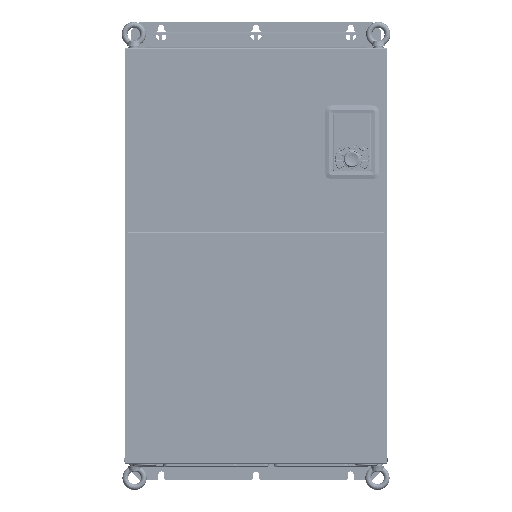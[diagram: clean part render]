
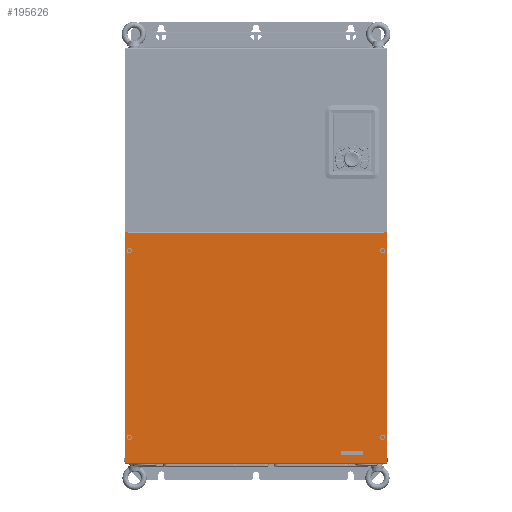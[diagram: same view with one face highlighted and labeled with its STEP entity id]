
A CAD part, top view. The second image highlights one B-rep face of the part: STEP entity #195626.
In plain terms, the highlighted planar face has unit normal (0, 0, 1).
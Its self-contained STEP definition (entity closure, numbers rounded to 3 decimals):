
#195012 = VERTEX_POINT('',#195013);
#195013 = CARTESIAN_POINT('',(244.,218.7,1.2));
#195045 = VERTEX_POINT('',#195046);
#195046 = CARTESIAN_POINT('',(-244.,218.7,1.2));
#195053 = EDGE_CURVE('',#195045,#195012,#195054,.T.);
#195054 = LINE('',#195055,#195056);
#195055 = CARTESIAN_POINT('',(-244.,218.7,1.2));
#195056 = VECTOR('',#195057,1.);
#195057 = DIRECTION('',(1.,0.,0.));
#195429 = EDGE_CURVE('',#195045,#195430,#195432,.T.);
#195430 = VERTEX_POINT('',#195431);
#195431 = CARTESIAN_POINT('',(-244.,219.9,1.2));
#195432 = LINE('',#195433,#195434);
#195433 = CARTESIAN_POINT('',(-244.,218.7,1.2));
#195434 = VECTOR('',#195435,1.);
#195435 = DIRECTION('',(0.,1.,0.));
#195559 = VERTEX_POINT('',#195560);
#195560 = CARTESIAN_POINT('',(244.,219.9,1.2));
#195568 = VERTEX_POINT('',#195569);
#195569 = CARTESIAN_POINT('',(248.3,219.9,1.2));
#195575 = EDGE_CURVE('',#195568,#195559,#195576,.T.);
#195576 = LINE('',#195577,#195578);
#195577 = CARTESIAN_POINT('',(248.3,219.9,1.2));
#195578 = VECTOR('',#195579,1.);
#195579 = DIRECTION('',(-1.,0.,0.));
#195590 = EDGE_CURVE('',#195430,#195591,#195593,.T.);
#195591 = VERTEX_POINT('',#195592);
#195592 = CARTESIAN_POINT('',(-248.3,219.9,1.2));
#195593 = LINE('',#195594,#195595);
#195594 = CARTESIAN_POINT('',(-244.,219.9,1.2));
#195595 = VECTOR('',#195596,1.);
#195596 = DIRECTION('',(-1.,0.,0.));
#195615 = EDGE_CURVE('',#195012,#195559,#195616,.T.);
#195616 = LINE('',#195617,#195618);
#195617 = CARTESIAN_POINT('',(244.,218.7,1.2));
#195618 = VECTOR('',#195619,1.);
#195619 = DIRECTION('',(0.,1.,0.));
#195626 = ADVANCED_FACE('',(#195627,#195656),#195690,.T.);
#195627 = FACE_BOUND('',#195628,.F.);
#195628 = EDGE_LOOP('',(#195629,#195630,#195631,#195632,#195640,#195648,
    #195654,#195655));
#195629 = ORIENTED_EDGE('',*,*,#195053,.T.);
#195630 = ORIENTED_EDGE('',*,*,#195615,.T.);
#195631 = ORIENTED_EDGE('',*,*,#195575,.F.);
#195632 = ORIENTED_EDGE('',*,*,#195633,.T.);
#195633 = EDGE_CURVE('',#195568,#195634,#195636,.T.);
#195634 = VERTEX_POINT('',#195635);
#195635 = CARTESIAN_POINT('',(248.3,-218.2,1.2));
#195636 = LINE('',#195637,#195638);
#195637 = CARTESIAN_POINT('',(248.3,219.9,1.2));
#195638 = VECTOR('',#195639,1.);
#195639 = DIRECTION('',(0.,-1.,0.));
#195640 = ORIENTED_EDGE('',*,*,#195641,.T.);
#195641 = EDGE_CURVE('',#195634,#195642,#195644,.T.);
#195642 = VERTEX_POINT('',#195643);
#195643 = CARTESIAN_POINT('',(-248.3,-218.2,1.2));
#195644 = LINE('',#195645,#195646);
#195645 = CARTESIAN_POINT('',(248.3,-218.2,1.2));
#195646 = VECTOR('',#195647,1.);
#195647 = DIRECTION('',(-1.,0.,0.));
#195648 = ORIENTED_EDGE('',*,*,#195649,.T.);
#195649 = EDGE_CURVE('',#195642,#195591,#195650,.T.);
#195650 = LINE('',#195651,#195652);
#195651 = CARTESIAN_POINT('',(-248.3,-218.2,1.2));
#195652 = VECTOR('',#195653,1.);
#195653 = DIRECTION('',(0.,1.,0.));
#195654 = ORIENTED_EDGE('',*,*,#195590,.F.);
#195655 = ORIENTED_EDGE('',*,*,#195429,.F.);
#195656 = FACE_BOUND('',#195657,.F.);
#195657 = EDGE_LOOP('',(#195658,#195668,#195676,#195684));
#195658 = ORIENTED_EDGE('',*,*,#195659,.F.);
#195659 = EDGE_CURVE('',#195660,#195662,#195664,.T.);
#195660 = VERTEX_POINT('',#195661);
#195661 = CARTESIAN_POINT('',(162.,-203.4,1.2));
#195662 = VERTEX_POINT('',#195663);
#195663 = CARTESIAN_POINT('',(162.,-196.4,1.2));
#195664 = LINE('',#195665,#195666);
#195665 = CARTESIAN_POINT('',(162.,-203.4,1.2));
#195666 = VECTOR('',#195667,1.);
#195667 = DIRECTION('',(0.,1.,0.));
#195668 = ORIENTED_EDGE('',*,*,#195669,.F.);
#195669 = EDGE_CURVE('',#195670,#195660,#195672,.T.);
#195670 = VERTEX_POINT('',#195671);
#195671 = CARTESIAN_POINT('',(203.,-203.4,1.2));
#195672 = LINE('',#195673,#195674);
#195673 = CARTESIAN_POINT('',(203.,-203.4,1.2));
#195674 = VECTOR('',#195675,1.);
#195675 = DIRECTION('',(-1.,0.,0.));
#195676 = ORIENTED_EDGE('',*,*,#195677,.F.);
#195677 = EDGE_CURVE('',#195678,#195670,#195680,.T.);
#195678 = VERTEX_POINT('',#195679);
#195679 = CARTESIAN_POINT('',(203.,-196.4,1.2));
#195680 = LINE('',#195681,#195682);
#195681 = CARTESIAN_POINT('',(203.,-196.4,1.2));
#195682 = VECTOR('',#195683,1.);
#195683 = DIRECTION('',(0.,-1.,0.));
#195684 = ORIENTED_EDGE('',*,*,#195685,.F.);
#195685 = EDGE_CURVE('',#195662,#195678,#195686,.T.);
#195686 = LINE('',#195687,#195688);
#195687 = CARTESIAN_POINT('',(162.,-196.4,1.2));
#195688 = VECTOR('',#195689,1.);
#195689 = DIRECTION('',(1.,0.,0.));
#195690 = PLANE('',#195691);
#195691 = AXIS2_PLACEMENT_3D('',#195692,#195693,#195694);
#195692 = CARTESIAN_POINT('',(0.,0.,1.2));
#195693 = DIRECTION('',(0.,0.,1.));
#195694 = DIRECTION('',(1.,0.,-0.));
